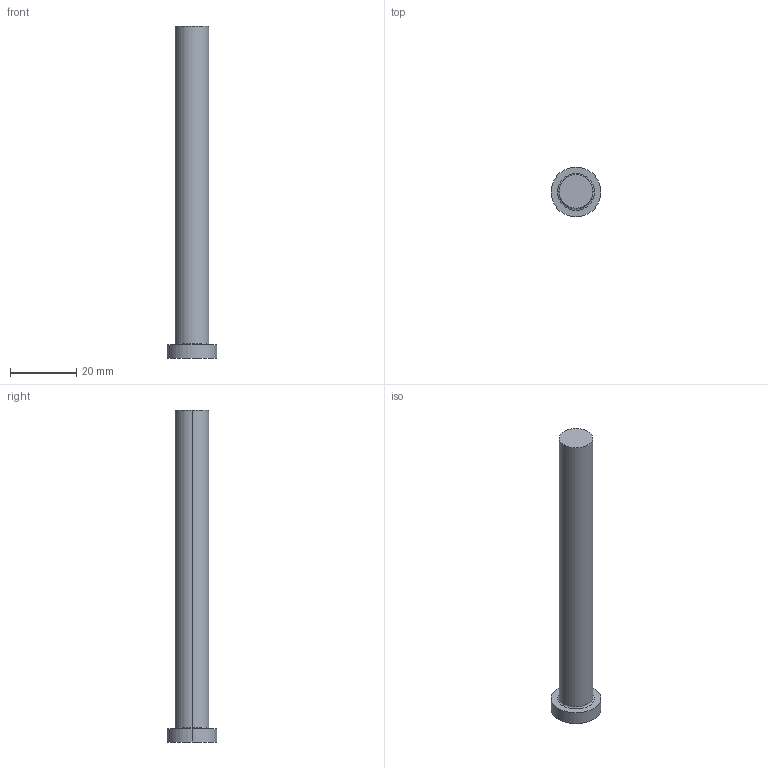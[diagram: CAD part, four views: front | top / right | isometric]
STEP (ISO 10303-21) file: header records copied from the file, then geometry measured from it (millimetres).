
FILE_DESCRIPTION (( 'STEP AP214' ), '1' );
FILE_NAME ('EPHE-B10.1-100.step', '2024-04-11T21:33:04', ( '' ), ( '' ), 'SwSTEP 2.0', 'SolidWorks 2017', '' );
FILE_SCHEMA (( 'AUTOMOTIVE_DESIGN' ));
Length unit declared in the file: millimetre
Products named in the file (1): EPHE-B10.1-100
Bounding box: 15 x 15 x 100 mm (x, y, z)
Volume: 8400 mm3; surface area: 3581.3 mm2
Topology: 1 solids, 1 shells, 9 faces, 16 edges, 10 vertices
Faces by surface type: cylinder 4, plane 3, torus 2
Entity records: 260 total; most frequent: DIRECTION 48, CARTESIAN_POINT 36, ORIENTED_EDGE 32, AXIS2_PLACEMENT_3D 22, EDGE_CURVE 16, CIRCLE 12, EDGE_LOOP 10, VERTEX_POINT 10
